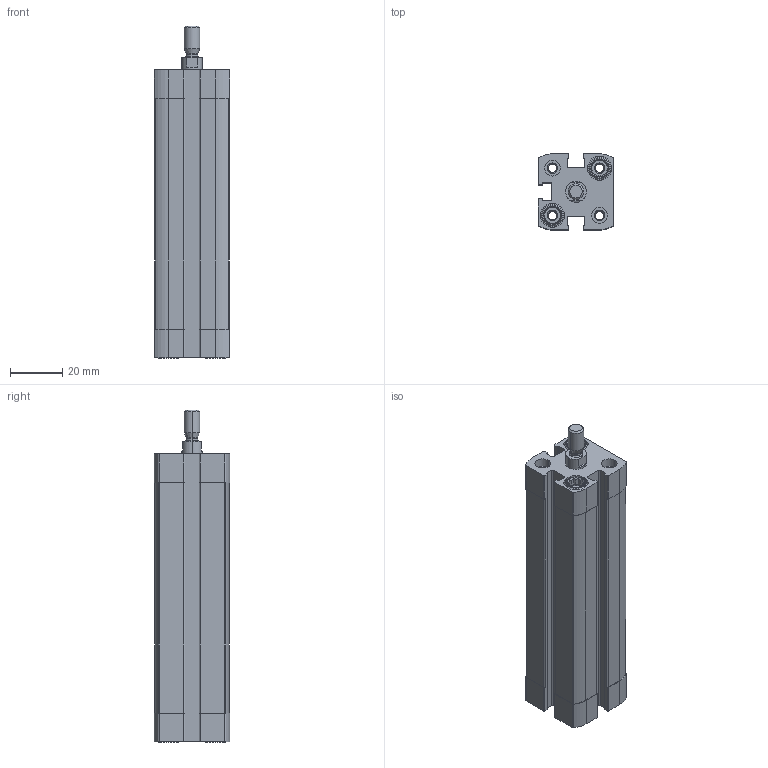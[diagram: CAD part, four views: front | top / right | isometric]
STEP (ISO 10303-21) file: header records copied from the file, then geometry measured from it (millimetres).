
FILE_DESCRIPTION (( 'STEP AP203' ), '1' );
FILE_NAME ('CCN16-75M.STEP', '2017-03-28T14:31:41', ( '' ), ( '' ), 'SwSTEP 2.0', 'SolidWorks 2016', '' );
FILE_SCHEMA (( 'CONFIG_CONTROL_DESIGN' ));
Length unit declared in the file: millimetre
Products named in the file (3): CCN-75---(Z); CCN-75_(KS); CCN16-75M
Assembly tree (2 placements, depth 2):
  CCN16-75M
    CCN-75---(Z)
    CCN-75_(KS)
Bounding box: 29 x 29 x 126.7 mm (x, y, z)
Volume: 61277.4 mm3; surface area: 32254.3 mm2
Topology: 2 solids, 2 shells, 365 faces, 940 edges, 614 vertices
Faces by surface type: plane 187, cylinder 134, cone 40, bspline 4
Entity records: 11593 total; most frequent: CARTESIAN_POINT 2284, DIRECTION 1894, ORIENTED_EDGE 1880, EDGE_CURVE 940, AXIS2_PLACEMENT_3D 688, VERTEX_POINT 614, VECTOR 518, LINE 518
